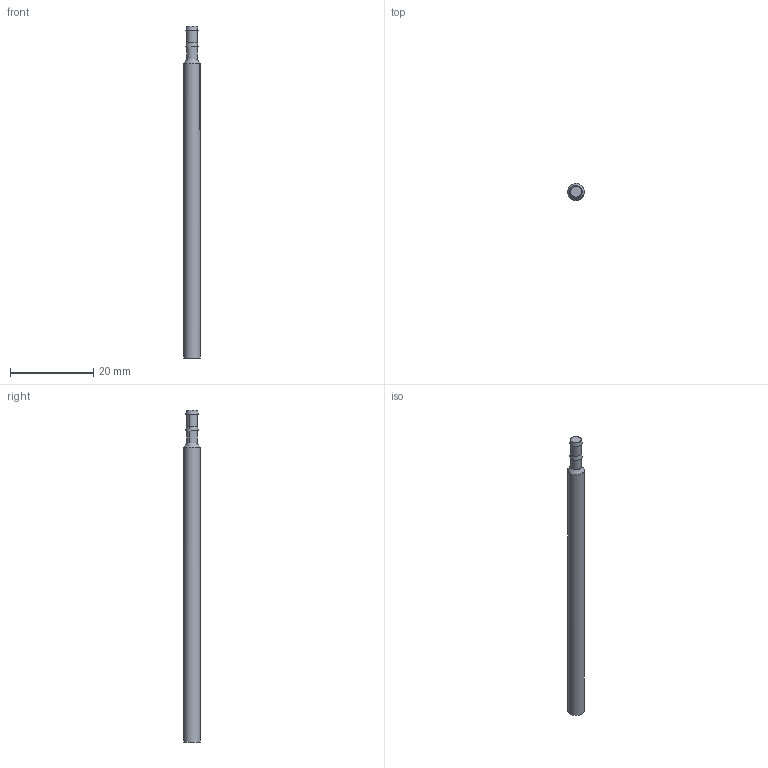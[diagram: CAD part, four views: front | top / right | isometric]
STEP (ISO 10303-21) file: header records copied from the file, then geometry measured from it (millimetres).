
FILE_DESCRIPTION(('CATIA V5 STEP Exchange'),'2;1');
FILE_NAME('C:\Users\Administrator\Desktop\fagan.stp','2021-06-07T03:18:36+00:00',('none'),('none'),'CATIA Version 5 Release 20 GA (IN-10)','CATIA V5 STEP AP214','none');
FILE_SCHEMA(('AUTOMOTIVE_DESIGN { 1 0 10303 214 1 1 1 1 }'));
Length unit declared in the file: millimetre
Products named in the file (1): BPC0010083-B
Bounding box: 4 x 4 x 80 mm (x, y, z)
Volume: 945.1 mm3; surface area: 993.2 mm2
Topology: 1 solids, 1 shells, 16 faces, 32 edges, 20 vertices
Faces by surface type: cone 6, cylinder 6, plane 4
Entity records: 391 total; most frequent: ORIENTED_EDGE 64, CARTESIAN_POINT 62, DIRECTION 50, EDGE_CURVE 32, AXIS2_PLACEMENT_3D 29, VERTEX_POINT 20, CIRCLE 19, EDGE_LOOP 18
